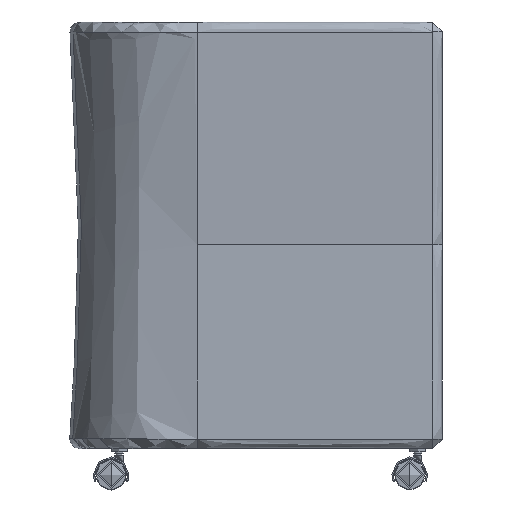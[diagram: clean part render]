
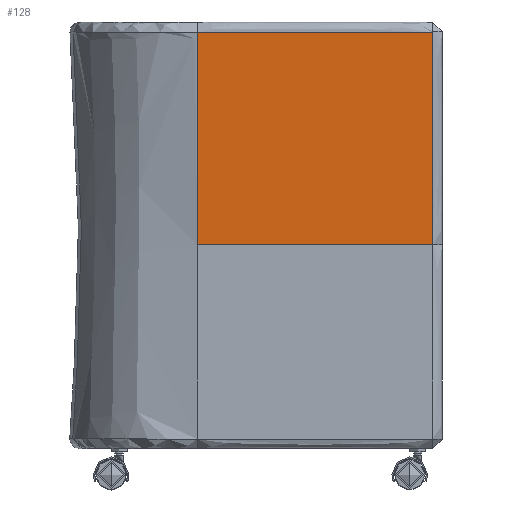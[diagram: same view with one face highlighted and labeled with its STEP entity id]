
A CAD part, left-side view. The second image highlights one B-rep face of the part: STEP entity #128.
In plain terms, the highlighted free-form (B-spline) face has degree [3, 1] with [4, 2] control points.
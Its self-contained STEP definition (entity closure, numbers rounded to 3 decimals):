
#128=ADVANCED_FACE('',(#430),#4097,.T.);
#430=FACE_OUTER_BOUND('',#732,.T.);
#732=EDGE_LOOP('',(#1143,#1144,#1145,#1146));
#1143=ORIENTED_EDGE('',*,*,#2370,.T.);
#1144=ORIENTED_EDGE('',*,*,#2389,.T.);
#1145=ORIENTED_EDGE('',*,*,#2400,.T.);
#1146=ORIENTED_EDGE('',*,*,#2417,.T.);
#2370=EDGE_CURVE('',#3682,#3683,#3310,.T.);
#2389=EDGE_CURVE('',#3683,#3684,#3004,.T.);
#2400=EDGE_CURVE('',#3684,#3624,#3014,.T.);
#2417=EDGE_CURVE('',#3624,#3682,#3322,.T.);
#3004=B_SPLINE_CURVE_WITH_KNOTS('',3,(#9048,#9049,#9050,#9051,#9052,#9053,
#9054,#9055,#9056,#9057,#9058,#9059,#9060,#9061,#9062),.UNSPECIFIED.,.F.,
 .F.,(4,1,1,1,1,1,1,1,1,1,1,1,4),(-1.,-0.935,-0.87,
-0.805,-0.74,-0.61,-0.48,
-0.349,-0.219,-0.154,-0.089,
-0.024,0.),.UNSPECIFIED.);
#3014=B_SPLINE_CURVE_WITH_KNOTS('',3,(#9407,#9408,#9409,#9410),
 .UNSPECIFIED.,.F.,.F.,(4,4),(-369.569,0.),.UNSPECIFIED.);
#3310=(
BOUNDED_CURVE()
B_SPLINE_CURVE(1,(#8866,#8867),.UNSPECIFIED.,.F.,.F.)
B_SPLINE_CURVE_WITH_KNOTS((2,2),(-369.569,0.),.UNSPECIFIED.)
CURVE()
GEOMETRIC_REPRESENTATION_ITEM()
RATIONAL_B_SPLINE_CURVE((1.,1.))
REPRESENTATION_ITEM('')
);
#3322=(
BOUNDED_CURVE()
B_SPLINE_CURVE(3,(#9658,#9659,#9660,#9661),.UNSPECIFIED.,.F.,.F.)
B_SPLINE_CURVE_WITH_KNOTS((4,4),(-960.602,0.),.UNSPECIFIED.)
CURVE()
GEOMETRIC_REPRESENTATION_ITEM()
RATIONAL_B_SPLINE_CURVE((1.,0.999,0.999,1.))
REPRESENTATION_ITEM('')
);
#3624=VERTEX_POINT('',#7726);
#3682=VERTEX_POINT('',#7784);
#3683=VERTEX_POINT('',#7785);
#3684=VERTEX_POINT('',#7786);
#4097=(
BOUNDED_SURFACE()
B_SPLINE_SURFACE(3,1,((#5440,#5441),(#5442,#5443),(#5444,#5445),(#5446,
#5447)),.UNSPECIFIED.,.F.,.F.,.F.)
B_SPLINE_SURFACE_WITH_KNOTS((4,4),(2,2),(0.,334.203),
(0.,369.569),.UNSPECIFIED.)
GEOMETRIC_REPRESENTATION_ITEM()
RATIONAL_B_SPLINE_SURFACE(((1.,1.),(0.965,0.965),
(0.931,0.931),(0.899,0.899)))
REPRESENTATION_ITEM('')
SURFACE()
);
#5440=CARTESIAN_POINT('',(-301.131,-200.385,385.));
#5441=CARTESIAN_POINT('',(-301.131,-569.954,385.));
#5442=CARTESIAN_POINT('',(-301.131,-200.385,494.411));
#5443=CARTESIAN_POINT('',(-301.131,-569.954,494.411));
#5444=CARTESIAN_POINT('',(-307.174,-200.385,605.682));
#5445=CARTESIAN_POINT('',(-307.174,-569.954,605.682));
#5446=CARTESIAN_POINT('',(-319.898,-200.385,718.323));
#5447=CARTESIAN_POINT('',(-319.898,-569.954,718.323));
#7726=CARTESIAN_POINT('',(-319.898,-569.954,718.323));
#7784=CARTESIAN_POINT('',(-301.131,-569.954,385.));
#7785=CARTESIAN_POINT('',(-301.131,-200.385,385.));
#7786=CARTESIAN_POINT('',(-319.898,-200.385,718.323));
#8866=CARTESIAN_POINT('',(-301.131,-569.954,385.));
#8867=CARTESIAN_POINT('',(-301.131,-200.385,385.));
#9048=CARTESIAN_POINT('',(-301.131,-200.385,385.));
#9049=CARTESIAN_POINT('',(-301.131,-200.385,394.218));
#9050=CARTESIAN_POINT('',(-301.215,-200.385,411.543));
#9051=CARTESIAN_POINT('',(-301.53,-200.385,435.446));
#9052=CARTESIAN_POINT('',(-302.,-200.385,457.928));
#9053=CARTESIAN_POINT('',(-302.81,-200.385,486.563));
#9054=CARTESIAN_POINT('',(-304.14,-200.385,520.626));
#9055=CARTESIAN_POINT('',(-306.222,-200.385,560.309));
#9056=CARTESIAN_POINT('',(-308.832,-200.385,599.96));
#9057=CARTESIAN_POINT('',(-311.526,-200.385,633.943));
#9058=CARTESIAN_POINT('',(-314.096,-200.385,662.475));
#9059=CARTESIAN_POINT('',(-316.279,-200.385,684.856));
#9060=CARTESIAN_POINT('',(-318.259,-200.385,703.646));
#9061=CARTESIAN_POINT('',(-319.54,-200.385,715.152));
#9062=CARTESIAN_POINT('',(-319.898,-200.385,718.323));
#9407=CARTESIAN_POINT('',(-319.898,-200.385,718.323));
#9408=CARTESIAN_POINT('',(-319.898,-323.574,718.323));
#9409=CARTESIAN_POINT('',(-319.898,-446.764,718.323));
#9410=CARTESIAN_POINT('',(-319.898,-569.954,718.323));
#9658=CARTESIAN_POINT('',(-319.898,-569.954,718.323));
#9659=CARTESIAN_POINT('',(-307.174,-569.954,605.682));
#9660=CARTESIAN_POINT('',(-301.131,-569.954,494.411));
#9661=CARTESIAN_POINT('',(-301.131,-569.954,385.));
